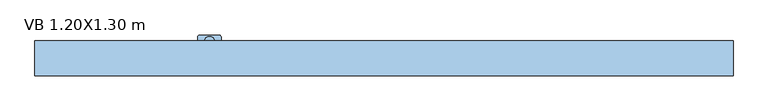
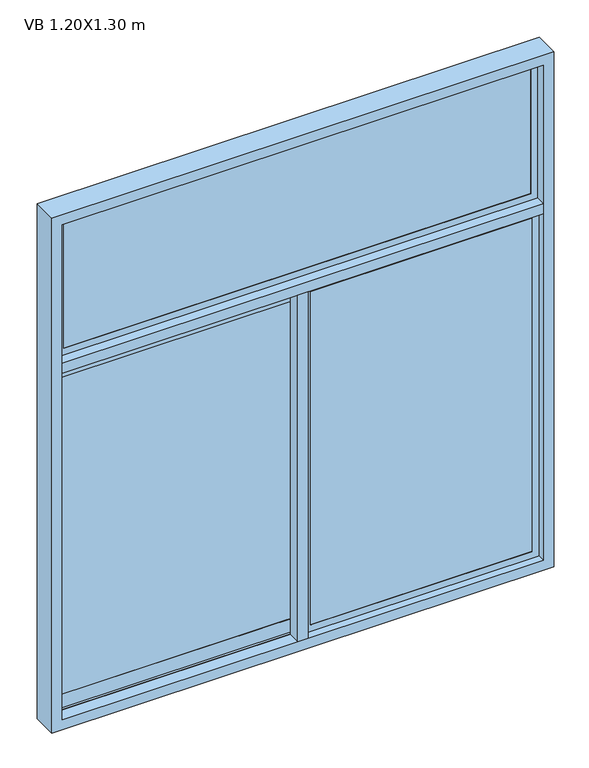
"""IFC4 building model written with IfcOpenShell, lengths in millimetres: window geometry, Ventana baja corrediza 2 cuerpos : VB 1.20X1.30 m."""

import ifcopenshell
import ifcopenshell.guid

model = None  # the IFC model being written
_history = None  # IfcOwnerHistory: only IFC2X3 demands one
_inside = {}  # id of a spatial element -> (the spatial element, [elements in it])
_under = {}  # id of a project, library or spatial element -> (it, [spatial elements below it])
_declared = {}  # id of a project -> (the project, [libraries it declares])
_typed = {}  # id of a type object -> (the type object, [elements of that type])
_made_of = {}  # id of a material, layer set ... -> (it, [elements and type objects made of it])


def new_model(schema):
    """Start an empty IFC model of exactly this schema.

    Asked for "IFC4X3", IfcOpenShell would pick the latest addendum, in which some entities
    have other attributes; the version numbers below select the first issue.
    IFC2X3 requires an IfcOwnerHistory on every rooted entity: one is made here for all.
    """
    global model, _history
    if schema == "IFC4X3":
        model = ifcopenshell.file(schema_version=(4, 3, 0, 0))
    else:
        model = ifcopenshell.file(schema=schema)
    _inside.clear()
    _under.clear()
    _declared.clear()
    _typed.clear()
    _made_of.clear()
    _history = None
    if model.schema == "IFC2X3":
        org = make("IfcOrganization", Name="unknown")
        user = make(
            "IfcPersonAndOrganization",
            ThePerson=make("IfcPerson", FamilyName="unknown"),
            TheOrganization=org,
        )
        app = make(
            "IfcApplication",
            ApplicationDeveloper=org,
            Version="unknown",
            ApplicationFullName="unknown",
            ApplicationIdentifier="unknown",
        )
        _history = make(
            "IfcOwnerHistory",
            OwningUser=user,
            OwningApplication=app,
            ChangeAction="ADDED",
            CreationDate=0,
        )
    return model


def make(cls, **values):
    """One entity of the class cls with the attributes given. An attribute that is None is left unset."""
    return model.create_entity(
        cls, **{name: value for name, value in values.items() if value is not None}
    )


def rooted(cls, **values):
    """An entity with a GlobalId (a new one), such as an element, a storey or a relation."""
    return make(cls, GlobalId=ifcopenshell.guid.new(), OwnerHistory=_history, **values)


def si_unit(unit_type, name, prefix=None):
    """IfcSIUnit, for example si_unit("LENGTHUNIT", "METRE", prefix="MILLI")."""
    return make("IfcSIUnit", UnitType=unit_type, Prefix=prefix, Name=name)


def assignment(units):
    """IfcUnitAssignment: the units of a project."""
    return None if units is None else make("IfcUnitAssignment", Units=units)


def point(xyz):
    """IfcCartesianPoint."""
    return None if xyz is None else make("IfcCartesianPoint", Coordinates=xyz)


def direction(xyz):
    """IfcDirection."""
    return None if xyz is None else make("IfcDirection", DirectionRatios=xyz)


def frame(location, z_axis=None, x_axis=None):
    """IfcAxis2Placement3D, a coordinate frame: its origin and axes. An axis left out is left unset."""
    return make(
        "IfcAxis2Placement3D",
        Location=point(location),
        Axis=direction(z_axis),
        RefDirection=direction(x_axis),
    )


def frame_2d(location, x_axis=None):
    """IfcAxis2Placement2D, a coordinate frame in the plane: its origin and x axis."""
    return make(
        "IfcAxis2Placement2D", Location=point(location), RefDirection=direction(x_axis)
    )


def origin():
    """The frame at (0, 0, 0) with its axes left unset."""
    return frame((0.0, 0.0, 0.0))


def place(relative_to, where):
    """IfcLocalPlacement: puts the frame where relative to a parent placement (None: the world)."""
    return make(
        "IfcLocalPlacement", PlacementRelTo=relative_to, RelativePlacement=where
    )


def context(
    kind, dimensions, precision=None, world=None, true_north=None, identifier=None
):
    """IfcGeometricRepresentationContext, for example the 3D "Model" context."""
    return make(
        "IfcGeometricRepresentationContext",
        ContextIdentifier=identifier,
        ContextType=kind,
        CoordinateSpaceDimension=dimensions,
        Precision=precision,
        WorldCoordinateSystem=world,
        TrueNorth=true_north,
    )


def project(units=None, contexts=None):
    """IfcProject with its units and contexts."""
    return rooted(
        "IfcProject",
        Name="project",
        RepresentationContexts=contexts,
        UnitsInContext=assignment(units),
    )


def spatial(cls, under=None, at=None, **own):
    """A site, building, storey or space (cls), placed at a placement, below another one or the project."""
    s = rooted(cls, ObjectPlacement=at, **own)
    if under is not None:
        _under.setdefault(under.id(), (under, []))[1].append(s)
    return s


def polyline(points):
    """IfcPolyline through the points."""
    return make("IfcPolyline", Points=[point(p) for p in points])


def circle_curve(where, radius):
    """IfcCircle in the frame where."""
    return make("IfcCircle", Position=where, Radius=radius)


def trimmed(basis, trim1, trim2, sense, master):
    """IfcTrimmedCurve: the piece of a basis curve between two trims."""
    return make(
        "IfcTrimmedCurve",
        BasisCurve=basis,
        Trim1=trim1,
        Trim2=trim2,
        SenseAgreement=sense,
        MasterRepresentation=master,
    )


def segment(curve, same_sense, transition):
    """IfcCompositeCurveSegment."""
    return make(
        "IfcCompositeCurveSegment",
        Transition=transition,
        SameSense=same_sense,
        ParentCurve=curve,
    )


def composite_curve(segments, self_intersect=None):
    """IfcCompositeCurve: segments joined end to end."""
    return make("IfcCompositeCurve", Segments=segments, SelfIntersect=self_intersect)


def outline(outer, holes=None, kind="AREA"):
    """IfcArbitraryClosedProfileDef: a profile drawn as a closed curve; with holes, ...WithVoids."""
    if holes is None:
        return make("IfcArbitraryClosedProfileDef", ProfileType=kind, OuterCurve=outer)
    return make(
        "IfcArbitraryProfileDefWithVoids",
        ProfileType=kind,
        OuterCurve=outer,
        InnerCurves=holes,
    )


def extrude(swept, where, along, depth):
    """IfcExtrudedAreaSolid: the profile swept, set in the frame where, extruded along a direction by depth."""
    return make(
        "IfcExtrudedAreaSolid",
        SweptArea=swept,
        Position=where,
        ExtrudedDirection=direction(along),
        Depth=depth,
    )


def faces_of(points, faces, orient=None, outer=None):
    """IfcFace entities. A face is a list of loops; a loop is a list of indices into points, from 0.

    orient and outer hold one flag for each loop. By default every Orientation is true, the
    first loop of a face is its IfcFaceOuterBound and the others are IfcFaceBound.
    """
    made = []
    for i, loops in enumerate(faces):
        bounds = []
        for j, loop in enumerate(loops):
            is_outer = j == 0 if outer is None else outer[i][j]
            bounds.append(
                make(
                    "IfcFaceOuterBound" if is_outer else "IfcFaceBound",
                    Bound=make("IfcPolyLoop", Polygon=[points[k] for k in loop]),
                    Orientation=True if orient is None else orient[i][j],
                )
            )
        made.append(make("IfcFace", Bounds=bounds))
    return made


def faceted_brep(points, faces, orient=None, outer=None, voids=None):
    """IfcFacetedBrep: a solid bounded by flat faces; with voids (closed shells), ...WithVoids."""
    shared = [point(p) for p in points]
    hull = make("IfcClosedShell", CfsFaces=faces_of(shared, faces, orient, outer))
    if voids is None:
        return make("IfcFacetedBrep", Outer=hull)
    return make(
        "IfcFacetedBrepWithVoids",
        Outer=hull,
        Voids=[
            make(cls, CfsFaces=faces_of(shared, fs, o, b)) for cls, fs, o, b in voids
        ],
    )


def shape(context_of_items, identifier, shape_type, items):
    """IfcShapeRepresentation: the items that make up one representation, for example the "Body"."""
    return make(
        "IfcShapeRepresentation",
        ContextOfItems=context_of_items,
        RepresentationIdentifier=identifier,
        RepresentationType=shape_type,
        Items=items,
    )


def source(mapping_origin, context_of_items, identifier, shape_type, items):
    """IfcRepresentationMap: a shape defined once, which mapped items show again and again."""
    return make(
        "IfcRepresentationMap",
        MappingOrigin=mapping_origin,
        MappedRepresentation=shape(context_of_items, identifier, shape_type, items),
    )


def transform(
    local_origin,
    x_axis=None,
    y_axis=None,
    z_axis=None,
    scale=None,
    scale2=None,
    scale3=None,
    uniform=True,
):
    """IfcCartesianTransformationOperator3D, or its non-uniform kind. x_axis, y_axis, z_axis: its Axis1, 2, 3."""
    if uniform:
        return make(
            "IfcCartesianTransformationOperator3D",
            Axis1=direction(x_axis),
            Axis2=direction(y_axis),
            LocalOrigin=point(local_origin),
            Scale=scale,
            Axis3=direction(z_axis),
        )
    return make(
        "IfcCartesianTransformationOperator3DnonUniform",
        Axis1=direction(x_axis),
        Axis2=direction(y_axis),
        LocalOrigin=point(local_origin),
        Scale=scale,
        Axis3=direction(z_axis),
        Scale2=scale2,
        Scale3=scale3,
    )


def mapped(mapping_source, mapping_target):
    """IfcMappedItem: shows the shape of a source again, moved by a transform."""
    return make(
        "IfcMappedItem", MappingSource=mapping_source, MappingTarget=mapping_target
    )


def made_of(thing, what):
    """Note that an element or type object is made of a material, layer set ...; save() writes the relation."""
    if what is not None:
        _made_of.setdefault(what.id(), (what, []))[1].append(thing)
    return thing


def element(
    cls,
    number,
    at=None,
    inside=None,
    cuts=None,
    type_object=None,
    material=None,
    context=None,
    identifier="Body",
    shape_type=None,
    held_by="IfcProductDefinitionShape",
    body=None,
    shapes=None,
    **own,
):
    """One element of the class cls, such as IfcWall. Its Tag is "e" and its number.

    at: its placement. inside: the storey or other place that contains it. cuts: it is an
    opening in that element (IfcRelVoidsElement). A single representation is given by context,
    identifier, shape_type and body (its items); several are given by shapes. held_by: the class
    of the entity that holds the representations. save() writes the other relations.
    """
    e = rooted(cls, Tag="e%d" % number, ObjectPlacement=at, **own)
    if body is not None:
        shapes = [shape(context, identifier, shape_type, body)]
    if shapes is not None:
        e.Representation = make(held_by, Representations=shapes)
    if inside is not None:
        _inside.setdefault(inside.id(), (inside, []))[1].append(e)
    if cuts is not None:
        rooted(
            "IfcRelVoidsElement", RelatingBuildingElement=cuts, RelatedOpeningElement=e
        )
    if type_object is not None:
        _typed.setdefault(type_object.id(), (type_object, []))[1].append(e)
    return made_of(e, material)


def aggregate(whole, parts):
    """IfcRelAggregates: a whole, such as a stair, and the parts it consists of."""
    return rooted("IfcRelAggregates", RelatingObject=whole, RelatedObjects=parts)


def save(model, path):
    """Write the relations noted so far, then the file.

    IfcRelAggregates (storeys below a building ...), IfcRelContainedInSpatialStructure (elements
    in a storey), IfcRelDefinesByType, IfcRelAssociatesMaterial and IfcRelDeclares: one each for
    every whole, place, type object, material and project.
    """
    for whole, parts in _under.values():
        aggregate(whole, parts)
    for where, things in _inside.values():
        rooted(
            "IfcRelContainedInSpatialStructure",
            RelatedElements=things,
            RelatingStructure=where,
        )
    for kind, things in _typed.values():
        rooted("IfcRelDefinesByType", RelatedObjects=things, RelatingType=kind)
    for what, things in _made_of.values():
        rooted("IfcRelAssociatesMaterial", RelatedObjects=things, RelatingMaterial=what)
    for by, libraries in _declared.values():
        rooted("IfcRelDeclares", RelatingContext=by, RelatedDefinitions=libraries)
    model.write(path)


def vb_1_20x1_30_m_50a12735(model_context):
    return source(origin(), model_context, "Body", "SolidModel", [
        extrude(outline(composite_curve([segment(trimmed(circle_curve(frame_2d((-300.0, 28.2738075)), 9.1519646), [point((-290.8480354, 28.2738075))], [point((-309.1519646, 28.2738075))], False, "CARTESIAN"), True, "CONTINUOUS"), segment(trimmed(circle_curve(frame_2d((-300.0, 28.2738075)), 9.1519646), [point((-309.1519646, 28.2738075))], [point((-290.8480354, 28.2738075))], False, "CARTESIAN"), True, "CONTINUOUS")], self_intersect=False)), frame((0.0, 0.0, 966.1518437), z_axis=(0.0, 0.0, 1.0), x_axis=(1.0, 0.0, 0.0)), (0.0, 0.0, 1.0), 3.4852564),
        extrude(outline(composite_curve([segment(trimmed(circle_curve(frame_2d((-300.0, 28.2738075)), 4.1308937), [point((-295.8691063, 28.2738075))], [point((-304.1308937, 28.2738075))], False, "CARTESIAN"), True, "CONTINUOUS"), segment(trimmed(circle_curve(frame_2d((-300.0, 28.2738075)), 4.1308937), [point((-304.1308937, 28.2738075))], [point((-295.8691063, 28.2738075))], False, "CARTESIAN"), True, "CONTINUOUS")], self_intersect=False)), frame((0.0, 0.0, 953.913316), z_axis=(0.0, 0.0, 1.0), x_axis=(1.0, 0.0, 0.0)), (0.0, 0.0, 1.0), 12.2385277),
        extrude(outline(composite_curve([segment(trimmed(circle_curve(frame_2d((-300.0, 28.2738075)), 7.026694), [point((-292.973306, 28.2738075))], [point((-307.026694, 28.2738075))], False, "CARTESIAN"), True, "CONTINUOUS"), segment(trimmed(circle_curve(frame_2d((-300.0, 28.2738075)), 7.026694), [point((-307.026694, 28.2738075))], [point((-292.973306, 28.2738075))], False, "CARTESIAN"), True, "CONTINUOUS")], self_intersect=False)), frame((0.0, 0.0, 932.1776083), z_axis=(0.0, 0.0, 1.0), x_axis=(1.0, 0.0, 0.0)), (0.0, 0.0, 1.0), 21.7357077),
        extrude(outline(composite_curve([segment(trimmed(circle_curve(frame_2d((945.1933283, -281.98428)), 1.98428), [point((945.1933283, -280.0))], [point((947.1776083, -281.98428))], False, "CARTESIAN"), True, "CONTINUOUS"), segment(polyline([(947.1776083, -281.98428), (947.1776083, -318.01572)]), True, "CONTINUOUS"), segment(trimmed(circle_curve(frame_2d((945.1933283, -318.01572)), 1.98428), [point((947.1776083, -318.01572))], [point((945.1933283, -320.0))], False, "CARTESIAN"), True, "CONTINUOUS"), segment(polyline([(945.1933283, -320.0), (932.1776083, -320.0), (932.1776083, -280.0), (945.1933283, -280.0)]), True, "CONTINUOUS")], self_intersect=False), holes=[composite_curve([segment(trimmed(circle_curve(frame_2d((940.5771467, -286.6646221)), 1.6750611), [point((940.5771467, -284.9895609))], [point((940.5771467, -288.3396832))], True, "CARTESIAN"), True, "CONTINUOUS"), segment(trimmed(circle_curve(frame_2d((940.5771467, -286.6646221)), 1.6750611), [point((940.5771467, -288.3396832))], [point((940.5771467, -284.9895609))], True, "CARTESIAN"), True, "CONTINUOUS")], self_intersect=False), composite_curve([segment(trimmed(circle_curve(frame_2d((940.5771467, -313.3353779)), 1.6750611), [point((940.5771467, -315.0104391))], [point((940.5771467, -311.6603168))], True, "CARTESIAN"), True, "CONTINUOUS"), segment(trimmed(circle_curve(frame_2d((940.5771467, -313.3353779)), 1.6750611), [point((940.5771467, -311.6603168))], [point((940.5771467, -315.0104391))], True, "CARTESIAN"), True, "CONTINUOUS")], self_intersect=False)]), frame((0.0, 15.1098039, 0.0), z_axis=(0.0, 1.0, 0.0), x_axis=(0.0, 0.0, 1.0)), (0.0, 0.0, 1.0), 4.012039),
        extrude(outline(composite_curve([segment(polyline([(-320.0, 15.1098039), (-320.0, 36.2721359)]), True, "CONTINUOUS"), segment(trimmed(circle_curve(frame_2d((-316.1623319, 36.2721359)), 3.8376681), [point((-320.0, 36.2721359))], [point((-316.1623319, 40.1098039))], False, "CARTESIAN"), True, "CONTINUOUS"), segment(polyline([(-316.1623319, 40.1098039), (-283.8376681, 40.1098039)]), True, "CONTINUOUS"), segment(trimmed(circle_curve(frame_2d((-283.8376681, 36.2721359)), 3.8376681), [point((-283.8376681, 40.1098039))], [point((-280.0, 36.2721359))], False, "CARTESIAN"), True, "CONTINUOUS"), segment(polyline([(-280.0, 36.2721359), (-280.0, 15.1098039), (-320.0, 15.1098039)]), True, "CONTINUOUS")], self_intersect=False)), frame((0.0, 0.0, 928.6104688), z_axis=(0.0, 0.0, 1.0), x_axis=(1.0, 0.0, 0.0)), (0.0, 0.0, 1.0), 3.5671395),
        extrude(outline(polyline([(-575.0, 13.9001865), (12.5, 13.9001865), (12.5, 4.4001865), (-575.0, 4.4001865), (-575.0, 13.9001865)])), frame((0.0, 0.0, 948.9759668), z_axis=(0.0, 0.0, 1.0), x_axis=(1.0, 0.0, 0.0)), (0.0, 0.0, 1.0), 827.0480665),
        extrude(outline(polyline([(571.40625, -1.2096174), (571.40625, -10.7096174), (16.09375, -10.7096174), (16.09375, -1.2096174), (571.40625, -1.2096174)])), frame((0.0, 0.0, 928.59375), z_axis=(0.0, 0.0, 1.0), x_axis=(1.0, 0.0, 0.0)), (0.0, 0.0, 1.0), 867.8125),
        extrude(outline(polyline([(571.40625, 4.75), (571.40625, -4.75), (-571.40625, -4.75), (-571.40625, 4.75), (571.40625, 4.75)])), frame((0.0, 0.0, 1828.59375), z_axis=(0.0, 0.0, 1.0), x_axis=(1.0, 0.0, 0.0)), (0.0, 0.0, 1.0), 342.8125),
        extrude(outline(composite_curve([segment(polyline([(10.2821926, 1800.0), (10.2821926, 1789.1628008)]), True, "CONTINUOUS"), segment(trimmed(circle_curve(frame_2d((9.1502142, 1789.8593269)), 1.3291064), [point((10.2821926, 1789.1628008))], [point((8.0182357, 1789.1628008))], False, "CARTESIAN"), True, "CONTINUOUS"), segment(polyline([(8.0182357, 1789.1628008), (8.0182357, 1797.9830324), (0.0, 1797.9830324), (0.0, 1800.0), (10.2821926, 1800.0)]), True, "CONTINUOUS")], self_intersect=False)), frame((-575.0, 0.0, 0.0), z_axis=(1.0, 0.0, 0.0), x_axis=(0.0, 1.0, 0.0)), (0.0, 0.0, 1.0), 1133.2282521),
        extrude(outline(polyline([(12.0251865, 1779.6177832), (12.0251865, 1796.3895312), (15.1098039, 1796.3895312), (15.1098039, 1762.8460353), (13.9001865, 1762.8460353), (13.9001865, 1776.0240332), (4.4001865, 1776.0240332), (4.4001865, 1762.8460353), (3.190569, 1762.8460353), (3.190569, 1796.3895312), (6.2751865, 1796.3895312), (6.2751865, 1779.6177832), (12.0251865, 1779.6177832)])), frame((-575.0, 0.0, 0.0), z_axis=(1.0, 0.0, 0.0), x_axis=(0.0, 1.0, 0.0)), (0.0, 0.0, 1.0), 587.5),
        extrude(outline(polyline([(6.9867702, 1780.2900719), (6.9867702, 1789.8233667), (9.1501865, 1787.6599504), (11.3136028, 1789.8233667), (11.3136028, 1780.2900719), (9.1501865, 1782.4534882), (6.9867702, 1780.2900719)])), frame((-575.0, 0.0, 0.0), z_axis=(1.0, 0.0, 0.0), x_axis=(0.0, 1.0, 0.0)), (0.0, 0.0, 1.0), 587.5),
        faceted_brep([(29.2717479, -1.2096174, 1783.2282521), (29.2717479, -1.2096174, 941.7717479), (29.2717479, 0.0, 941.7717479), (29.2717479, 0.0, 1783.2282521), (16.09375, -10.7096174, 1796.40625), (16.09375, -10.7096174, 928.59375), (16.09375, -1.2096174, 928.59375), (16.09375, -1.2096174, 1796.40625), (29.2717479, -11.9192349, 1783.2282521), (29.2717479, -11.9192349, 941.7717479), (29.2717479, -10.7096174, 941.7717479), (29.2717479, -10.7096174, 1783.2282521), (12.5, 0.0, 1800.0), (12.5, 0.0, 925.0), (12.5, -11.9192349, 925.0), (12.5, -11.9192349, 1800.0), (558.2282521, -1.2096174, 941.7717479), (558.2282521, 0.0, 941.7717479), (571.40625, -10.7096174, 928.59375), (571.40625, -1.2096174, 928.59375), (558.2282521, -11.9192349, 941.7717479), (558.2282521, -10.7096174, 941.7717479), (575.0, 0.0, 925.0), (575.0, -11.9192349, 925.0), (558.2282521, -1.2096174, 1783.2282521), (558.2282521, 0.0, 1783.2282521), (571.40625, -10.7096174, 1796.40625), (571.40625, -1.2096174, 1796.40625), (558.2282521, -11.9192349, 1783.2282521), (558.2282521, -10.7096174, 1783.2282521), (575.0, 0.0, 1800.0), (575.0, -11.9192349, 1800.0)], [[[0, 1, 2, 3]], [[4, 5, 6, 7]], [[8, 9, 10, 11]], [[12, 13, 14, 15]], [[1, 16, 17, 2]], [[5, 18, 19, 6]], [[9, 20, 21, 10]], [[13, 22, 23, 14]], [[16, 24, 25, 17]], [[18, 26, 27, 19]], [[20, 28, 29, 21]], [[22, 30, 31, 23]], [[13, 12, 30, 22], [3, 2, 17, 25]], [[24, 0, 3, 25]], [[7, 6, 19, 27], [1, 0, 24, 16]], [[26, 4, 7, 27]], [[5, 4, 26, 18], [11, 10, 21, 29]], [[28, 8, 11, 29]], [[15, 14, 23, 31], [9, 8, 28, 20]], [[30, 12, 15, 31]]]),
        faceted_brep([(-575.0, 5.9596174, 2175.0), (-575.0, 5.9596174, 1825.0), (-575.0, -5.9596174, 1825.0), (-575.0, -5.9596174, 2175.0), (-558.2282521, 4.75, 2158.2282521), (-558.2282521, 4.75, 1841.7717479), (-558.2282521, 5.9596174, 1841.7717479), (-558.2282521, 5.9596174, 2158.2282521), (-571.40625, -4.75, 2171.40625), (-571.40625, -4.75, 1828.59375), (-571.40625, 4.75, 1828.59375), (-571.40625, 4.75, 2171.40625), (-558.2282521, -5.9596174, 2158.2282521), (-558.2282521, -5.9596174, 1841.7717479), (-558.2282521, -4.75, 1841.7717479), (-558.2282521, -4.75, 2158.2282521), (575.0, 5.9596174, 1825.0), (575.0, -5.9596174, 1825.0), (558.2282521, 4.75, 1841.7717479), (558.2282521, 5.9596174, 1841.7717479), (571.40625, -4.75, 1828.59375), (571.40625, 4.75, 1828.59375), (558.2282521, -5.9596174, 1841.7717479), (558.2282521, -4.75, 1841.7717479), (575.0, 5.9596174, 2175.0), (575.0, -5.9596174, 2175.0), (558.2282521, 4.75, 2158.2282521), (558.2282521, 5.9596174, 2158.2282521), (571.40625, -4.75, 2171.40625), (571.40625, 4.75, 2171.40625), (558.2282521, -5.9596174, 2158.2282521), (558.2282521, -4.75, 2158.2282521)], [[[0, 1, 2, 3]], [[4, 5, 6, 7]], [[8, 9, 10, 11]], [[12, 13, 14, 15]], [[1, 16, 17, 2]], [[5, 18, 19, 6]], [[9, 20, 21, 10]], [[13, 22, 23, 14]], [[16, 24, 25, 17]], [[18, 26, 27, 19]], [[20, 28, 29, 21]], [[22, 30, 31, 23]], [[24, 0, 3, 25]], [[1, 0, 24, 16], [7, 6, 19, 27]], [[26, 4, 7, 27]], [[11, 10, 21, 29], [5, 4, 26, 18]], [[28, 8, 11, 29]], [[9, 8, 28, 20], [15, 14, 23, 31]], [[30, 12, 15, 31]], [[3, 2, 17, 25], [13, 12, 30, 22]]]),
        extrude(outline(polyline([(12.5, 0.0), (12.5, -30.15), (-12.5, -30.15), (-12.5, 0.0), (12.5, 0.0)])), frame((0.0, 0.0, 925.0), z_axis=(0.0, 0.0, 1.0), x_axis=(1.0, 0.0, 0.0)), (0.0, 0.0, 1.0), 875.0),
        extrude(outline(polyline([(575.0, -30.15), (-575.0, -30.15), (-575.0, 30.15), (575.0, 30.15), (575.0, -30.15)])), frame((0.0, 0.0, 1800.0), z_axis=(0.0, 0.0, 1.0), x_axis=(1.0, 0.0, 0.0)), (0.0, 0.0, 1.0), 25.0),
        extrude(outline(polyline([(2200.0, -600.0), (900.0, -600.0), (900.0, 600.0), (2200.0, 600.0), (2200.0, -600.0)]), holes=[polyline([(925.0, -575.0), (2175.0, -575.0), (2175.0, 575.0), (925.0, 575.0), (925.0, -575.0)])]), frame((0.0, -30.15, 0.0), z_axis=(0.0, 1.0, 0.0), x_axis=(0.0, 0.0, 1.0)), (0.0, 0.0, 1.0), 60.3),
        extrude(outline(polyline([(3.190569, 962.1539647), (4.4001865, 962.1539647), (4.4001865, 948.9759668), (13.9001865, 948.9759668), (13.9001865, 962.1539647), (15.1098039, 962.1539647), (15.1098039, 928.6104688), (12.0251865, 928.6104688), (12.0251865, 945.3822168), (6.2751865, 945.3822168), (6.2751865, 928.6104688), (3.190569, 928.6104688), (3.190569, 962.1539647)])), frame((-575.0, 0.0, 0.0), z_axis=(1.0, 0.0, 0.0), x_axis=(0.0, 1.0, 0.0)), (0.0, 0.0, 1.0), 587.5),
        extrude(outline(polyline([(9.1501865, 942.5465118), (11.3136028, 944.7099281), (11.3136028, 935.1766333), (9.1501865, 937.3400496), (6.9867702, 935.1766333), (6.9867702, 944.7099281), (9.1501865, 942.5465118)])), frame((-575.0, 0.0, 0.0), z_axis=(1.0, 0.0, 0.0), x_axis=(0.0, 1.0, 0.0)), (0.0, 0.0, 1.0), 587.5),
        extrude(outline(composite_curve([segment(polyline([(10.2821926, 925.0), (0.0, 925.0), (0.0, 927.0169676), (8.0182357, 927.0169676), (8.0182357, 935.8371992)]), True, "CONTINUOUS"), segment(trimmed(circle_curve(frame_2d((9.1502142, 935.1406731)), 1.3291064), [point((8.0182357, 935.8371992))], [point((10.2821926, 935.8371992))], False, "CARTESIAN"), True, "CONTINUOUS"), segment(polyline([(10.2821926, 935.8371992), (10.2821926, 925.0)]), True, "CONTINUOUS")], self_intersect=False)), frame((-575.0, 0.0, 0.0), z_axis=(1.0, 0.0, 0.0), x_axis=(0.0, 1.0, 0.0)), (0.0, 0.0, 1.0), 1133.2282521),
    ])


if __name__ == "__main__":
    model = new_model("IFC4")
    model_context = context("Model", 3, world=origin())
    ifc_project = project(units=[si_unit("LENGTHUNIT", "METRE", prefix="MILLI")], contexts=[model_context])
    site = spatial("IfcSite", under=ifc_project)
    building = spatial("IfcBuilding", under=site)
    placement = place(None, origin())
    vb_1_20x1_30_m_shape = vb_1_20x1_30_m_50a12735(model_context)
    element("IfcWindow", 1, ObjectType="Ventana baja corrediza 2 cuerpos : VB 1.20X1.30 m", at=placement, inside=building, context=model_context, shape_type="MappedRepresentation", body=[
        mapped(vb_1_20x1_30_m_shape, transform((0.0, 0.0, 0.0), x_axis=(1.0, 0.0, 0.0), y_axis=(0.0, 1.0, 0.0), z_axis=(0.0, 0.0, 1.0))),
    ])
    save(model, "model.ifc")
